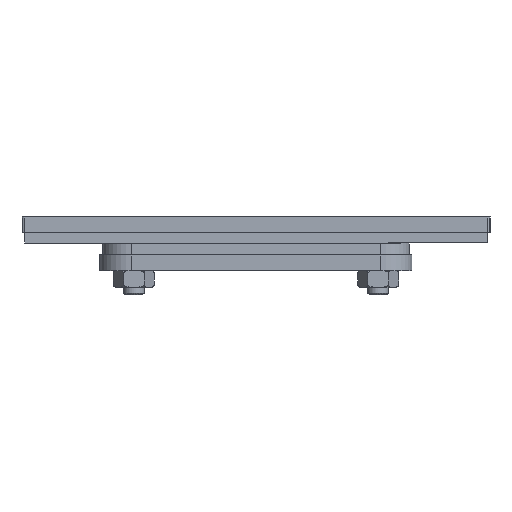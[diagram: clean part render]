
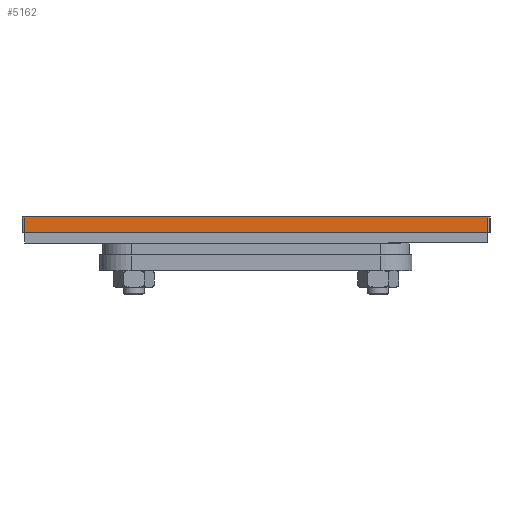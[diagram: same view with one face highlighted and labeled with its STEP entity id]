
A CAD part, left-side view. The second image highlights one B-rep face of the part: STEP entity #5162.
In plain terms, the highlighted planar face has unit normal (-1, 0, 0).
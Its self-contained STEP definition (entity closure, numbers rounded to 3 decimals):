
#355=LINE('',#8250,#421);
#358=LINE('',#8381,#424);
#360=LINE('',#8449,#426);
#361=LINE('',#8450,#427);
#421=VECTOR('',#6530,1000.);
#424=VECTOR('',#6659,1000.);
#426=VECTOR('',#6727,1000.);
#427=VECTOR('',#6728,1000.);
#618=ORIENTED_EDGE('',*,*,#1635,.T.);
#619=ORIENTED_EDGE('',*,*,#1734,.T.);
#620=ORIENTED_EDGE('',*,*,#1700,.F.);
#621=ORIENTED_EDGE('',*,*,#1735,.T.);
#1635=EDGE_CURVE('',#2194,#2193,#355,.T.);
#1700=EDGE_CURVE('',#2258,#2259,#358,.T.);
#1734=EDGE_CURVE('',#2193,#2259,#360,.T.);
#1735=EDGE_CURVE('',#2258,#2194,#361,.F.);
#2193=VERTEX_POINT('',#8249);
#2194=VERTEX_POINT('',#8251);
#2258=VERTEX_POINT('',#8380);
#2259=VERTEX_POINT('',#8382);
#3282=EDGE_LOOP('',(#618,#619,#620,#621));
#4238=FACE_BOUND('',#3282,.T.);
#5076=PLANE('',#5762);
#5162=ADVANCED_FACE('',(#4238),#5076,.T.);
#5762=AXIS2_PLACEMENT_3D('',#8448,#6725,#6726);
#6530=DIRECTION('',(0.,-1.,0.));
#6659=DIRECTION('',(0.,-1.,0.));
#6725=DIRECTION('',(-1.,0.,0.));
#6726=DIRECTION('',(0.,0.,1.));
#6727=DIRECTION('',(0.,0.,1.));
#6728=DIRECTION('',(0.,0.,1.));
#8249=CARTESIAN_POINT('',(-110.5,-44.6,-3.));
#8250=CARTESIAN_POINT('',(-110.5,45.,-3.));
#8251=CARTESIAN_POINT('',(-110.5,44.6,-3.));
#8380=CARTESIAN_POINT('',(-110.5,44.6,0.));
#8381=CARTESIAN_POINT('',(-110.5,45.,0.));
#8382=CARTESIAN_POINT('',(-110.5,-44.6,0.));
#8448=CARTESIAN_POINT('',(-110.5,45.,-3.));
#8449=CARTESIAN_POINT('',(-110.5,-44.6,-3.));
#8450=CARTESIAN_POINT('',(-110.5,44.6,-3.));
